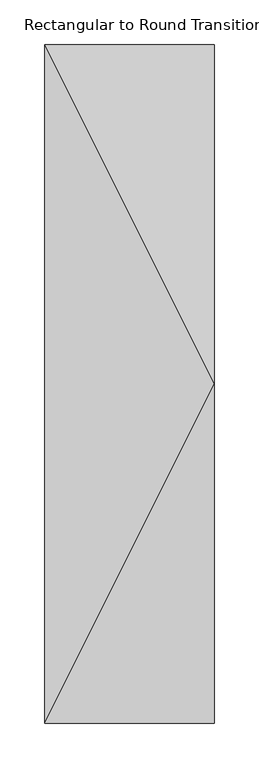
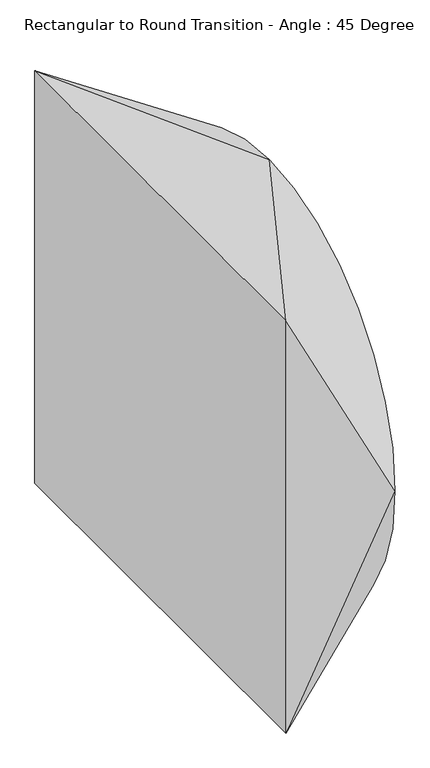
"""IFC4 building model written with IfcOpenShell, lengths in millimetres: duct fitting geometry, Rectangular to Round Transition - Angle : 45 Degree."""

from ifc_helpers import new_model, si_unit, frame, origin, place, context, project, spatial, circle_curve, source, transform, mapped, element, save
from ifc_brep_helpers import plane_surface, spline_surface, advanced_brep


def rectangular_to_round_transition_angle_45_degree_88719520(model_context):
    return source(origin(), model_context, "Body", "AdvancedBrep", [
        advanced_brep(
        [(190.5, 0.0, 381.0), (190.5, -381.0, 0.0), (190.5, 0.0, -381.0), (190.5, 381.0, 0.0), (0.0, -381.0, 381.0), (0.0, 381.0, 381.0), (0.0, 381.0, -381.0), (0.0, -381.0, -381.0)],
        [
            (0, 1, circle_curve(frame((190.5, 0.0, 0.0), z_axis=(1.0, 0.0, 0.0), x_axis=(0.0, 1.0, 0.0)), 381.0)),
            (1, 2, circle_curve(frame((190.5, 0.0, 0.0), z_axis=(1.0, 0.0, 0.0), x_axis=(0.0, 1.0, 0.0)), 381.0)),
            (2, 3, circle_curve(frame((190.5, 0.0, 0.0), z_axis=(1.0, 0.0, 0.0), x_axis=(0.0, 1.0, 0.0)), 381.0)),
            (3, 0, circle_curve(frame((190.5, 0.0, 0.0), z_axis=(1.0, 0.0, 0.0), x_axis=(0.0, 1.0, 0.0)), 381.0)),
            (4, 5),
            (5, 6),
            (6, 7),
            (7, 4),
            (0, 4),
            (4, 1),
            (7, 1),
            (7, 2),
            (6, 2),
            (6, 3),
            (5, 3),
            (5, 0),
        ],
        [
            plane_surface(frame((190.5, 0.0, 0.0), z_axis=(1.0, 0.0, 0.0), x_axis=(0.0, 0.0, -1.0))),
            plane_surface(frame((0.0, 0.0, 0.0), z_axis=(-1.0, 0.0, 0.0), x_axis=(0.0, 0.0, -1.0))),
            spline_surface(2, 1, [[(0.0, -381.0, 381.0), (190.5, 0.0, 381.0)], [(0.0, -381.0, 381.0), (190.5, -381.0, 381.0)], [(0.0, -381.0, 381.0), (190.5, -381.0, 0.0)]], [3, 3], [2, 2], [0.0, 1.0], [0.0, 1.0], weights=[[1.0, 1.0], [0.7071067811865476, 0.7071067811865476], [1.0, 1.0]]),
            plane_surface(frame((0.0, -381.0, 0.0), z_axis=(0.0, -1.0, 0.0), x_axis=(0.0, 0.0, -1.0))),
            spline_surface(2, 1, [[(0.0, -381.0, -381.0), (190.5, -381.0, 0.0)], [(0.0, -381.0, -381.0), (190.5, -381.0, -381.0)], [(0.0, -381.0, -381.0), (190.5, 0.0, -381.0)]], [3, 3], [2, 2], [0.0, 1.0], [0.0, 1.0], weights=[[1.0, 1.0], [0.7071067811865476, 0.7071067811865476], [1.0, 1.0]]),
            plane_surface(frame((0.0, 0.0, -381.0), z_axis=(0.0, 0.0, -1.0), x_axis=(0.0, 1.0, 0.0))),
            spline_surface(2, 1, [[(0.0, 381.0, -381.0), (190.5, 0.0, -381.0)], [(0.0, 381.0, -381.0), (190.5, 381.0, -381.0)], [(0.0, 381.0, -381.0), (190.5, 381.0, 0.0)]], [3, 3], [2, 2], [0.0, 1.0], [0.0, 1.0], weights=[[1.0, 1.0], [0.7071067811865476, 0.7071067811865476], [1.0, 1.0]]),
            plane_surface(frame((0.0, 381.0, 0.0), z_axis=(0.0, 1.0, 0.0), x_axis=(0.0, 0.0, 1.0))),
            spline_surface(2, 1, [[(0.0, 381.0, 381.0), (190.5, 381.0, 0.0)], [(0.0, 381.0, 381.0), (190.5, 381.0, 381.0)], [(0.0, 381.0, 381.0), (190.5, 0.0, 381.0)]], [3, 3], [2, 2], [0.0, 1.0], [0.0, 1.0], weights=[[1.0, 1.0], [0.7071067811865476, 0.7071067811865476], [1.0, 1.0]]),
            plane_surface(frame((0.0, 0.0, 381.0), z_axis=(0.0, 0.0, 1.0), x_axis=(0.0, -1.0, 0.0))),
        ],
        [
            (0, [[1, 2, 3, 4]]),
            (1, [[5, 6, 7, 8]]),
            (2, [[-1, 9, 10]]),
            (3, [[-8, 11, -10]]),
            (4, [[-2, -11, 12]]),
            (5, [[-7, 13, -12]]),
            (6, [[-3, -13, 14]]),
            (7, [[-6, 15, -14]]),
            (8, [[-4, -15, 16]]),
            (9, [[-5, -9, -16]]),
        ],
    ),
    ])


if __name__ == "__main__":
    model = new_model("IFC4")
    model_context = context("Model", 3, world=origin())
    ifc_project = project(units=[si_unit("LENGTHUNIT", "METRE", prefix="MILLI")], contexts=[model_context])
    site = spatial("IfcSite", under=ifc_project)
    building = spatial("IfcBuilding", under=site)
    placement = place(None, origin())
    rectangular_to_round_transition_angle_45_degree_shape = rectangular_to_round_transition_angle_45_degree_88719520(model_context)
    element("IfcDuctFitting", 1, ObjectType="Rectangular to Round Transition - Angle : 45 Degree", at=placement, inside=building, context=model_context, shape_type="MappedRepresentation", body=[
        mapped(rectangular_to_round_transition_angle_45_degree_shape, transform((0.0, 0.0, 0.0), x_axis=(1.0, 0.0, 0.0), y_axis=(0.0, 1.0, 0.0), z_axis=(0.0, 0.0, 1.0))),
    ])
    save(model, "model.ifc")
